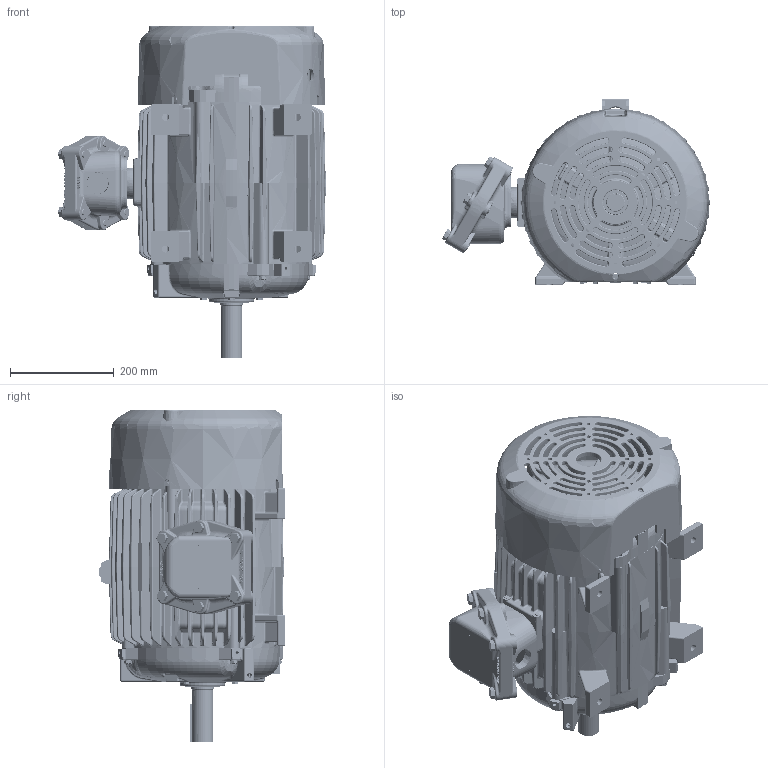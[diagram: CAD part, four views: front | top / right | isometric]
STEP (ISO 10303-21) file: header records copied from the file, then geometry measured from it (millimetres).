
FILE_DESCRIPTION (( 'STEP AP203' ), '1' );
FILE_NAME ('SS203001-1225-F2_RevE.STEP', '2018-10-15T20:04:37', ( 'RBC' ), ( 'RBC' ), 'SwSTEP 2.0', 'SolidWorks 2015', '' );
FILE_SCHEMA (( 'CONFIG_CONTROL_DESIGN' ));
Length unit declared in the file: inch
Products named in the file (1): SS203001-1225-F2_RevE
Bounding box: 515.63 x 357.12 x 639.59 mm (x, y, z)
Volume: 12801428 mm3; surface area: 2593242.5 mm2
Topology: 29 solids, 29 shells, 4959 faces, 12430 edges, 7493 vertices
Faces by surface type: bspline 1519, plane 1254, cylinder 1082, cone 554, torus 431, sphere 119
Entity records: 220191 total; most frequent: CARTESIAN_POINT 114625, ORIENTED_EDGE 24570, DIRECTION 19021, EDGE_CURVE 12285, AXIS2_PLACEMENT_3D 7601, VERTEX_POINT 7486, EDGE_LOOP 5265, ADVANCED_FACE 4959
